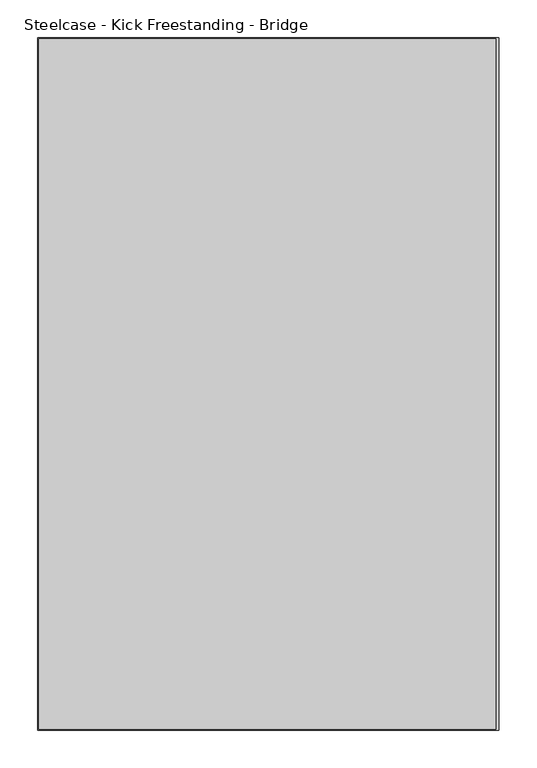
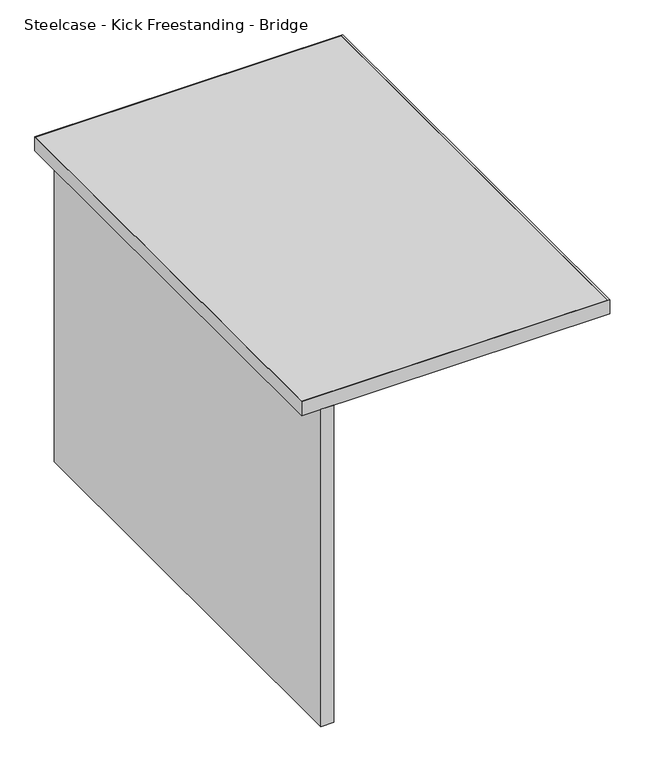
"""IFC4 building model written with IfcOpenShell, lengths in millimetres: furniture geometry, Steelcase - Kick Freestanding - Bridge : 24D x 36W - Full Panel."""

from ifc_helpers import new_model, si_unit, frame, origin, place, context, project, spatial, polyline, outline, extrude, source, transform, mapped, element, save


def steelcase_kick_freestanding_bridge_5b603e38(model_context):
    return source(origin(), model_context, "Body", "SweptSolid", [
        extrude(outline(polyline([(2201.9594425, -1461.2145152), (2201.9594425, -546.8145152), (2227.3594425, -546.8145152), (2227.3594425, -1461.2145152), (2201.9594425, -1461.2145152)])), frame((0.0, 0.0, 18.542), z_axis=(0.0, 0.0, 1.0), x_axis=(1.0, 0.0, 0.0)), (0.0, 0.0, 1.0), 663.702),
        extrude(outline(polyline([(2769.2176592, -548.0845152), (2769.2176592, -1459.9445152), (2164.8500425, -1459.9445152), (2164.8500425, -548.0845152), (2769.2176592, -548.0845152)])), frame((0.0, 0.0, 682.244), z_axis=(0.0, 0.0, 1.0), x_axis=(1.0, 0.0, 0.0)), (0.0, 0.0, 1.0), 28.956),
        extrude(outline(polyline([(2773.4594425, -546.8145152), (2773.4594425, -1461.2145152), (2163.8594425, -1461.2145152), (2163.8594425, -546.8145152), (2773.4594425, -546.8145152)]), holes=[polyline([(2769.2176592, -548.0845152), (2164.8500425, -548.0845152), (2164.8500425, -1459.9445152), (2769.2176592, -1459.9445152), (2769.2176592, -548.0845152)])]), frame((0.0, 0.0, 682.244), z_axis=(0.0, 0.0, 1.0), x_axis=(1.0, 0.0, 0.0)), (0.0, 0.0, 1.0), 28.956),
    ])


if __name__ == "__main__":
    model = new_model("IFC4")
    model_context = context("Model", 3, world=origin())
    ifc_project = project(units=[si_unit("LENGTHUNIT", "METRE", prefix="MILLI")], contexts=[model_context])
    site = spatial("IfcSite", under=ifc_project)
    building = spatial("IfcBuilding", under=site)
    placement = place(None, origin())
    steelcase_kick_freestanding_bridge_shape = steelcase_kick_freestanding_bridge_5b603e38(model_context)
    element("IfcFurniture", 1, ObjectType="Steelcase - Kick Freestanding - Bridge : 24D x 36W - Full Panel", at=placement, inside=building, context=model_context, shape_type="MappedRepresentation", body=[
        mapped(steelcase_kick_freestanding_bridge_shape, transform((0.0, 0.0, 0.0), x_axis=(1.0, 0.0, 0.0), y_axis=(0.0, 1.0, 0.0), z_axis=(0.0, 0.0, 1.0))),
    ])
    save(model, "model.ifc")
